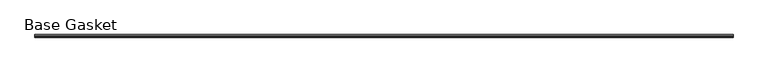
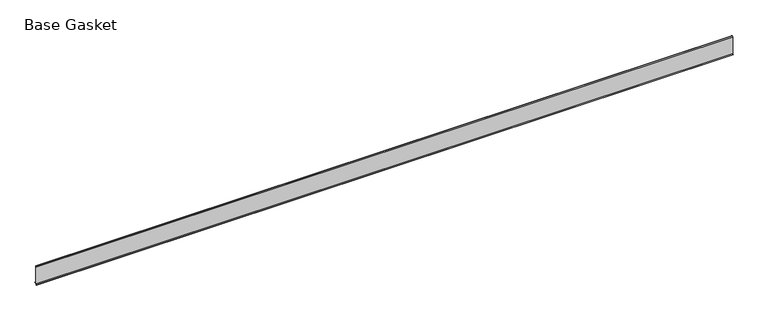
"""IFC4 building model written with IfcOpenShell, lengths in millimetres: furniture geometry, Gasket-Teknion-FHGB-AI_Healthcare-R2021 : Base Gasket."""

import ifcopenshell
import ifcopenshell.guid

model = None  # the IFC model being written
_history = None  # IfcOwnerHistory: only IFC2X3 demands one
_inside = {}  # id of a spatial element -> (the spatial element, [elements in it])
_under = {}  # id of a project, library or spatial element -> (it, [spatial elements below it])
_declared = {}  # id of a project -> (the project, [libraries it declares])
_typed = {}  # id of a type object -> (the type object, [elements of that type])
_made_of = {}  # id of a material, layer set ... -> (it, [elements and type objects made of it])


def new_model(schema):
    """Start an empty IFC model of exactly this schema.

    Asked for "IFC4X3", IfcOpenShell would pick the latest addendum, in which some entities
    have other attributes; the version numbers below select the first issue.
    IFC2X3 requires an IfcOwnerHistory on every rooted entity: one is made here for all.
    """
    global model, _history
    if schema == "IFC4X3":
        model = ifcopenshell.file(schema_version=(4, 3, 0, 0))
    else:
        model = ifcopenshell.file(schema=schema)
    _inside.clear()
    _under.clear()
    _declared.clear()
    _typed.clear()
    _made_of.clear()
    _history = None
    if model.schema == "IFC2X3":
        org = make("IfcOrganization", Name="unknown")
        user = make(
            "IfcPersonAndOrganization",
            ThePerson=make("IfcPerson", FamilyName="unknown"),
            TheOrganization=org,
        )
        app = make(
            "IfcApplication",
            ApplicationDeveloper=org,
            Version="unknown",
            ApplicationFullName="unknown",
            ApplicationIdentifier="unknown",
        )
        _history = make(
            "IfcOwnerHistory",
            OwningUser=user,
            OwningApplication=app,
            ChangeAction="ADDED",
            CreationDate=0,
        )
    return model


def make(cls, **values):
    """One entity of the class cls with the attributes given. An attribute that is None is left unset."""
    return model.create_entity(
        cls, **{name: value for name, value in values.items() if value is not None}
    )


def rooted(cls, **values):
    """An entity with a GlobalId (a new one), such as an element, a storey or a relation."""
    return make(cls, GlobalId=ifcopenshell.guid.new(), OwnerHistory=_history, **values)


def si_unit(unit_type, name, prefix=None):
    """IfcSIUnit, for example si_unit("LENGTHUNIT", "METRE", prefix="MILLI")."""
    return make("IfcSIUnit", UnitType=unit_type, Prefix=prefix, Name=name)


def assignment(units):
    """IfcUnitAssignment: the units of a project."""
    return None if units is None else make("IfcUnitAssignment", Units=units)


def point(xyz):
    """IfcCartesianPoint."""
    return None if xyz is None else make("IfcCartesianPoint", Coordinates=xyz)


def direction(xyz):
    """IfcDirection."""
    return None if xyz is None else make("IfcDirection", DirectionRatios=xyz)


def frame(location, z_axis=None, x_axis=None):
    """IfcAxis2Placement3D, a coordinate frame: its origin and axes. An axis left out is left unset."""
    return make(
        "IfcAxis2Placement3D",
        Location=point(location),
        Axis=direction(z_axis),
        RefDirection=direction(x_axis),
    )


def origin():
    """The frame at (0, 0, 0) with its axes left unset."""
    return frame((0.0, 0.0, 0.0))


def place(relative_to, where):
    """IfcLocalPlacement: puts the frame where relative to a parent placement (None: the world)."""
    return make(
        "IfcLocalPlacement", PlacementRelTo=relative_to, RelativePlacement=where
    )


def context(
    kind, dimensions, precision=None, world=None, true_north=None, identifier=None
):
    """IfcGeometricRepresentationContext, for example the 3D "Model" context."""
    return make(
        "IfcGeometricRepresentationContext",
        ContextIdentifier=identifier,
        ContextType=kind,
        CoordinateSpaceDimension=dimensions,
        Precision=precision,
        WorldCoordinateSystem=world,
        TrueNorth=true_north,
    )


def project(units=None, contexts=None):
    """IfcProject with its units and contexts."""
    return rooted(
        "IfcProject",
        Name="project",
        RepresentationContexts=contexts,
        UnitsInContext=assignment(units),
    )


def spatial(cls, under=None, at=None, **own):
    """A site, building, storey or space (cls), placed at a placement, below another one or the project."""
    s = rooted(cls, ObjectPlacement=at, **own)
    if under is not None:
        _under.setdefault(under.id(), (under, []))[1].append(s)
    return s


def polyline(points):
    """IfcPolyline through the points."""
    return make("IfcPolyline", Points=[point(p) for p in points])


def outline(outer, holes=None, kind="AREA"):
    """IfcArbitraryClosedProfileDef: a profile drawn as a closed curve; with holes, ...WithVoids."""
    if holes is None:
        return make("IfcArbitraryClosedProfileDef", ProfileType=kind, OuterCurve=outer)
    return make(
        "IfcArbitraryProfileDefWithVoids",
        ProfileType=kind,
        OuterCurve=outer,
        InnerCurves=holes,
    )


def extrude(swept, where, along, depth):
    """IfcExtrudedAreaSolid: the profile swept, set in the frame where, extruded along a direction by depth."""
    return make(
        "IfcExtrudedAreaSolid",
        SweptArea=swept,
        Position=where,
        ExtrudedDirection=direction(along),
        Depth=depth,
    )


def shape(context_of_items, identifier, shape_type, items):
    """IfcShapeRepresentation: the items that make up one representation, for example the "Body"."""
    return make(
        "IfcShapeRepresentation",
        ContextOfItems=context_of_items,
        RepresentationIdentifier=identifier,
        RepresentationType=shape_type,
        Items=items,
    )


def source(mapping_origin, context_of_items, identifier, shape_type, items):
    """IfcRepresentationMap: a shape defined once, which mapped items show again and again."""
    return make(
        "IfcRepresentationMap",
        MappingOrigin=mapping_origin,
        MappedRepresentation=shape(context_of_items, identifier, shape_type, items),
    )


def transform(
    local_origin,
    x_axis=None,
    y_axis=None,
    z_axis=None,
    scale=None,
    scale2=None,
    scale3=None,
    uniform=True,
):
    """IfcCartesianTransformationOperator3D, or its non-uniform kind. x_axis, y_axis, z_axis: its Axis1, 2, 3."""
    if uniform:
        return make(
            "IfcCartesianTransformationOperator3D",
            Axis1=direction(x_axis),
            Axis2=direction(y_axis),
            LocalOrigin=point(local_origin),
            Scale=scale,
            Axis3=direction(z_axis),
        )
    return make(
        "IfcCartesianTransformationOperator3DnonUniform",
        Axis1=direction(x_axis),
        Axis2=direction(y_axis),
        LocalOrigin=point(local_origin),
        Scale=scale,
        Axis3=direction(z_axis),
        Scale2=scale2,
        Scale3=scale3,
    )


def mapped(mapping_source, mapping_target):
    """IfcMappedItem: shows the shape of a source again, moved by a transform."""
    return make(
        "IfcMappedItem", MappingSource=mapping_source, MappingTarget=mapping_target
    )


def made_of(thing, what):
    """Note that an element or type object is made of a material, layer set ...; save() writes the relation."""
    if what is not None:
        _made_of.setdefault(what.id(), (what, []))[1].append(thing)
    return thing


def element(
    cls,
    number,
    at=None,
    inside=None,
    cuts=None,
    type_object=None,
    material=None,
    context=None,
    identifier="Body",
    shape_type=None,
    held_by="IfcProductDefinitionShape",
    body=None,
    shapes=None,
    **own,
):
    """One element of the class cls, such as IfcWall. Its Tag is "e" and its number.

    at: its placement. inside: the storey or other place that contains it. cuts: it is an
    opening in that element (IfcRelVoidsElement). A single representation is given by context,
    identifier, shape_type and body (its items); several are given by shapes. held_by: the class
    of the entity that holds the representations. save() writes the other relations.
    """
    e = rooted(cls, Tag="e%d" % number, ObjectPlacement=at, **own)
    if body is not None:
        shapes = [shape(context, identifier, shape_type, body)]
    if shapes is not None:
        e.Representation = make(held_by, Representations=shapes)
    if inside is not None:
        _inside.setdefault(inside.id(), (inside, []))[1].append(e)
    if cuts is not None:
        rooted(
            "IfcRelVoidsElement", RelatingBuildingElement=cuts, RelatedOpeningElement=e
        )
    if type_object is not None:
        _typed.setdefault(type_object.id(), (type_object, []))[1].append(e)
    return made_of(e, material)


def aggregate(whole, parts):
    """IfcRelAggregates: a whole, such as a stair, and the parts it consists of."""
    return rooted("IfcRelAggregates", RelatingObject=whole, RelatedObjects=parts)


def save(model, path):
    """Write the relations noted so far, then the file.

    IfcRelAggregates (storeys below a building ...), IfcRelContainedInSpatialStructure (elements
    in a storey), IfcRelDefinesByType, IfcRelAssociatesMaterial and IfcRelDeclares: one each for
    every whole, place, type object, material and project.
    """
    for whole, parts in _under.values():
        aggregate(whole, parts)
    for where, things in _inside.values():
        rooted(
            "IfcRelContainedInSpatialStructure",
            RelatedElements=things,
            RelatingStructure=where,
        )
    for kind, things in _typed.values():
        rooted("IfcRelDefinesByType", RelatedObjects=things, RelatingType=kind)
    for what, things in _made_of.values():
        rooted("IfcRelAssociatesMaterial", RelatedObjects=things, RelatingMaterial=what)
    for by, libraries in _declared.values():
        rooted("IfcRelDeclares", RelatingContext=by, RelatedDefinitions=libraries)
    model.write(path)


def base_gasket_dbe219a8(model_context):
    return source(origin(), model_context, "Body", "SweptSolid", [
        extrude(outline(polyline([(-3.7283812, 98.4568417), (-1.1891543, 104.587663), (-0.6755308, 105.2002997), (-0.6755308, 104.4162708), (-2.2043812, 98.4568417), (-2.2043812, 96.8693477), (-1.4106313, 96.8693477), (-1.4106313, 71.4693447), (-2.2043812, 71.4693447), (-2.2043812, 7.9398773), (6.2405171, 7.9398773), (6.2405171, 6.3818476), (-2.1334222, 6.3818476), (-2.2043812, 4.3498477), (-6.8281054, 0.3520979), (-7.8482342, 0.0), (-7.4222115, 0.6560174), (-3.7283812, 4.3498477), (-3.7283812, 98.4568417)])), frame((-1527.8982117, 0.0, 0.0), z_axis=(1.0, 0.0, 0.0), x_axis=(0.0, 1.0, 0.0)), (0.0, 0.0, 1.0), 3765.9564),
    ])


if __name__ == "__main__":
    model = new_model("IFC4")
    model_context = context("Model", 3, world=origin())
    ifc_project = project(units=[si_unit("LENGTHUNIT", "METRE", prefix="MILLI")], contexts=[model_context])
    site = spatial("IfcSite", under=ifc_project)
    building = spatial("IfcBuilding", under=site)
    placement = place(None, origin())
    base_gasket_shape = base_gasket_dbe219a8(model_context)
    element("IfcFurniture", 1, ObjectType="Gasket-Teknion-FHGB-AI_Healthcare-R2021 : Base Gasket", at=placement, inside=building, context=model_context, shape_type="MappedRepresentation", body=[
        mapped(base_gasket_shape, transform((0.0, 0.0, 0.0), x_axis=(1.0, 0.0, 0.0), y_axis=(0.0, 1.0, 0.0), z_axis=(0.0, 0.0, 1.0))),
    ])
    save(model, "model.ifc")
